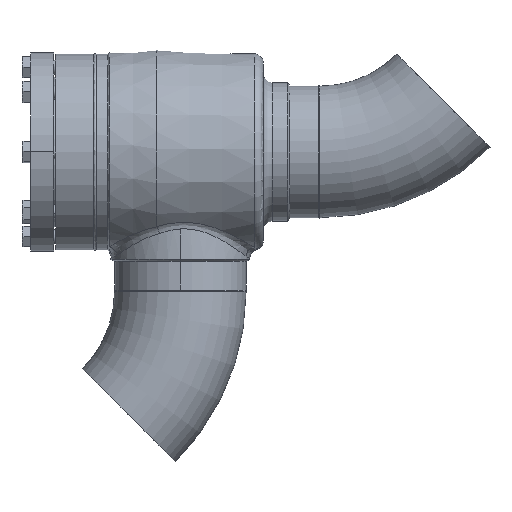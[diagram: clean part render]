
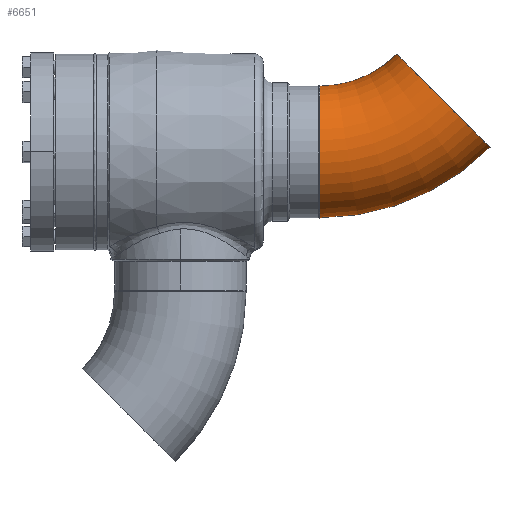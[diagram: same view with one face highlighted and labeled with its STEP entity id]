
A CAD part, left-side view. The second image highlights one B-rep face of the part: STEP entity #6651.
In plain terms, the highlighted toroidal (fillet/blend) face has major radius 152 mm and minor radius 57.15 mm.
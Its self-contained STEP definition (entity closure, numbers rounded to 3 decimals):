
#83 = CIRCLE ( 'NONE', #84, 57.15 ) ;
#84 = AXIS2_PLACEMENT_3D ( 'NONE', #85, #86, #87 ) ;
#85 = CARTESIAN_POINT ( 'NONE',  ( 0., 0., 0. ) ) ;
#86 = DIRECTION ( 'NONE',  ( 1., 0., 0. ) ) ;
#87 = DIRECTION ( 'NONE',  ( 0., 0., -1. ) ) ;
#208 = FACE_OUTER_BOUND ( 'NONE', #5659, .T. ) ;
#209 = TOROIDAL_SURFACE ( 'NONE', #210, 152., 57.15 ) ;
#210 = AXIS2_PLACEMENT_3D ( 'NONE', #211, #212, #213 ) ;
#211 = CARTESIAN_POINT ( 'NONE',  ( 0., -152., 0. ) ) ;
#212 = DIRECTION ( 'NONE',  ( 0., 0., 1. ) ) ;
#213 = DIRECTION ( 'NONE',  ( 1., 0., 0. ) ) ;
#16648 = CARTESIAN_POINT ( 'NONE',  ( 67.069, -84.931, 0. ) ) ;
#823 = CARTESIAN_POINT ( 'NONE',  ( 0., -57.15, 0. ) ) ;
#2044 = EDGE_CURVE ( 'NONE', #10879, #13213, #83, .T. ) ;
#2132 = ORIENTED_EDGE ( 'NONE', *, *, #2044, .T. ) ;
#3092 = ORIENTED_EDGE ( 'NONE', *, *, #8154, .F. ) ;
#5659 = EDGE_LOOP ( 'NONE', ( #10072, #3092, #12196, #2132 ) ) ;
#5894 = CIRCLE ( 'NONE', #5895, 209.15 ) ;
#5895 = AXIS2_PLACEMENT_3D ( 'NONE', #5896, #5897, #5898 ) ;
#5896 = CARTESIAN_POINT ( 'NONE',  ( 0., -152., 0. ) ) ;
#5897 = DIRECTION ( 'NONE',  ( 0., 0., 1. ) ) ;
#5898 = DIRECTION ( 'NONE',  ( 1., 0., 0. ) ) ;
#6070 = VERTEX_POINT ( 'NONE', #16648 ) ;
#6651 = ADVANCED_FACE ( 'NONE', ( #208 ), #209, .T. ) ;
#7467 = CIRCLE ( 'NONE', #7468, 94.85 ) ;
#7468 = AXIS2_PLACEMENT_3D ( 'NONE', #7469, #7470, #7471 ) ;
#7469 = CARTESIAN_POINT ( 'NONE',  ( 0., -152., 0. ) ) ;
#7470 = DIRECTION ( 'NONE',  ( 0., 0., 1. ) ) ;
#7471 = DIRECTION ( 'NONE',  ( 1., 0., 0. ) ) ;
#8070 = EDGE_CURVE ( 'NONE', #6070, #10879, #7467, .T. ) ;
#8106 = CIRCLE ( 'NONE', #8107, 57.15 ) ;
#8107 = AXIS2_PLACEMENT_3D ( 'NONE', #8108, #8109, #8110 ) ;
#8108 = CARTESIAN_POINT ( 'NONE',  ( 107.48, -44.52, 0. ) ) ;
#8109 = DIRECTION ( 'NONE',  ( 0.707, -0.707, 0. ) ) ;
#8110 = DIRECTION ( 'NONE',  ( 0., 0., -1. ) ) ;
#8154 = EDGE_CURVE ( 'NONE', #6070, #9252, #8106, .T. ) ;
#9252 = VERTEX_POINT ( 'NONE', #16278 ) ;
#10072 = ORIENTED_EDGE ( 'NONE', *, *, #12317, .F. ) ;
#10879 = VERTEX_POINT ( 'NONE', #823 ) ;
#12196 = ORIENTED_EDGE ( 'NONE', *, *, #8070, .T. ) ;
#12317 = EDGE_CURVE ( 'NONE', #9252, #13213, #5894, .T. ) ;
#13213 = VERTEX_POINT ( 'NONE', #13226 ) ;
#13226 = CARTESIAN_POINT ( 'NONE',  ( 0., 57.15, 0. ) ) ;
#16278 = CARTESIAN_POINT ( 'NONE',  ( 147.891, -4.109, 0. ) ) ;
